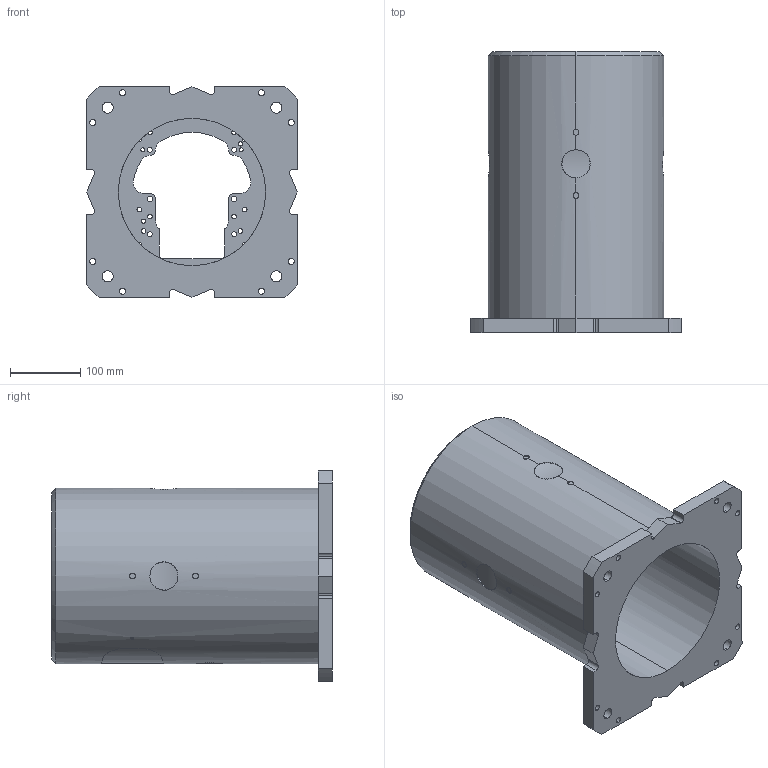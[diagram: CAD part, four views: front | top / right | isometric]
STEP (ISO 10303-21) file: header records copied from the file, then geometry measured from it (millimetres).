
FILE_DESCRIPTION (( 'STEP AP214' ), '1' );
FILE_NAME ('A-400.STEP', '2025-09-19T11:09:07', ( '' ), ( '' ), 'SwSTEP 2.0', 'SolidWorks 2022', '' );
FILE_SCHEMA (( 'AUTOMOTIVE_DESIGN' ));
Length unit declared in the file: millimetre
Products named in the file (1): A-400
Bounding box: 300 x 400 x 300 mm (x, y, z)
Volume: 6735828.7 mm3; surface area: 732519 mm2
Topology: 1 solids, 1 shells, 216 faces, 618 edges, 406 vertices
Faces by surface type: cylinder 155, plane 43, bspline 16, cone 2
Entity records: 12795 total; most frequent: CARTESIAN_POINT 6153, ORIENTED_EDGE 1236, DIRECTION 1176, EDGE_CURVE 618, AXIS2_PLACEMENT_3D 467, VERTEX_POINT 406, EDGE_LOOP 292, CIRCLE 266
